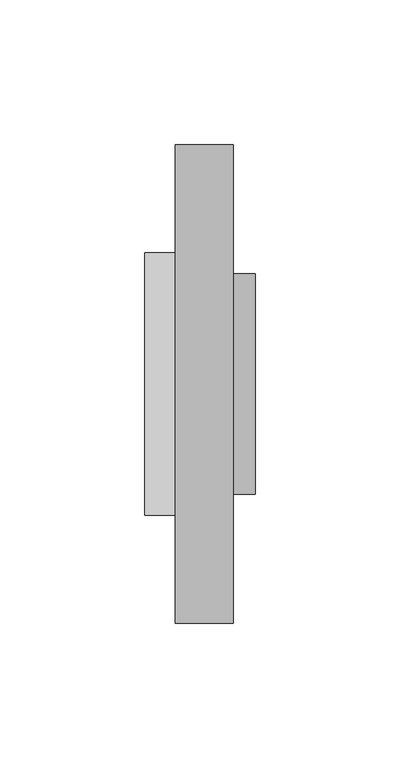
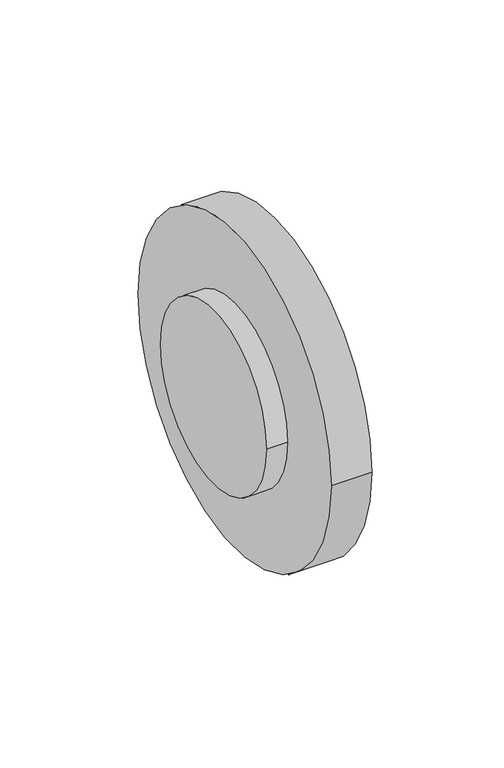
"""IFC4 building model written with IfcOpenShell, lengths in millimetres: pipe fitting geometry, NIRON RED termofusion casquillo con brida : Estándar."""

import ifcopenshell
import ifcopenshell.guid

model = None  # the IFC model being written
_history = None  # IfcOwnerHistory: only IFC2X3 demands one
_inside = {}  # id of a spatial element -> (the spatial element, [elements in it])
_under = {}  # id of a project, library or spatial element -> (it, [spatial elements below it])
_declared = {}  # id of a project -> (the project, [libraries it declares])
_typed = {}  # id of a type object -> (the type object, [elements of that type])
_made_of = {}  # id of a material, layer set ... -> (it, [elements and type objects made of it])


def new_model(schema):
    """Start an empty IFC model of exactly this schema.

    Asked for "IFC4X3", IfcOpenShell would pick the latest addendum, in which some entities
    have other attributes; the version numbers below select the first issue.
    IFC2X3 requires an IfcOwnerHistory on every rooted entity: one is made here for all.
    """
    global model, _history
    if schema == "IFC4X3":
        model = ifcopenshell.file(schema_version=(4, 3, 0, 0))
    else:
        model = ifcopenshell.file(schema=schema)
    _inside.clear()
    _under.clear()
    _declared.clear()
    _typed.clear()
    _made_of.clear()
    _history = None
    if model.schema == "IFC2X3":
        org = make("IfcOrganization", Name="unknown")
        user = make(
            "IfcPersonAndOrganization",
            ThePerson=make("IfcPerson", FamilyName="unknown"),
            TheOrganization=org,
        )
        app = make(
            "IfcApplication",
            ApplicationDeveloper=org,
            Version="unknown",
            ApplicationFullName="unknown",
            ApplicationIdentifier="unknown",
        )
        _history = make(
            "IfcOwnerHistory",
            OwningUser=user,
            OwningApplication=app,
            ChangeAction="ADDED",
            CreationDate=0,
        )
    return model


def make(cls, **values):
    """One entity of the class cls with the attributes given. An attribute that is None is left unset."""
    return model.create_entity(
        cls, **{name: value for name, value in values.items() if value is not None}
    )


def rooted(cls, **values):
    """An entity with a GlobalId (a new one), such as an element, a storey or a relation."""
    return make(cls, GlobalId=ifcopenshell.guid.new(), OwnerHistory=_history, **values)


def si_unit(unit_type, name, prefix=None):
    """IfcSIUnit, for example si_unit("LENGTHUNIT", "METRE", prefix="MILLI")."""
    return make("IfcSIUnit", UnitType=unit_type, Prefix=prefix, Name=name)


def assignment(units):
    """IfcUnitAssignment: the units of a project."""
    return None if units is None else make("IfcUnitAssignment", Units=units)


def point(xyz):
    """IfcCartesianPoint."""
    return None if xyz is None else make("IfcCartesianPoint", Coordinates=xyz)


def direction(xyz):
    """IfcDirection."""
    return None if xyz is None else make("IfcDirection", DirectionRatios=xyz)


def frame(location, z_axis=None, x_axis=None):
    """IfcAxis2Placement3D, a coordinate frame: its origin and axes. An axis left out is left unset."""
    return make(
        "IfcAxis2Placement3D",
        Location=point(location),
        Axis=direction(z_axis),
        RefDirection=direction(x_axis),
    )


def frame_2d(location, x_axis=None):
    """IfcAxis2Placement2D, a coordinate frame in the plane: its origin and x axis."""
    return make(
        "IfcAxis2Placement2D", Location=point(location), RefDirection=direction(x_axis)
    )


def origin():
    """The frame at (0, 0, 0) with its axes left unset."""
    return frame((0.0, 0.0, 0.0))


def origin_2d():
    """The frame at (0, 0) in the plane with its x axis left unset."""
    return frame_2d((0.0, 0.0))


def place(relative_to, where):
    """IfcLocalPlacement: puts the frame where relative to a parent placement (None: the world)."""
    return make(
        "IfcLocalPlacement", PlacementRelTo=relative_to, RelativePlacement=where
    )


def context(
    kind, dimensions, precision=None, world=None, true_north=None, identifier=None
):
    """IfcGeometricRepresentationContext, for example the 3D "Model" context."""
    return make(
        "IfcGeometricRepresentationContext",
        ContextIdentifier=identifier,
        ContextType=kind,
        CoordinateSpaceDimension=dimensions,
        Precision=precision,
        WorldCoordinateSystem=world,
        TrueNorth=true_north,
    )


def project(units=None, contexts=None):
    """IfcProject with its units and contexts."""
    return rooted(
        "IfcProject",
        Name="project",
        RepresentationContexts=contexts,
        UnitsInContext=assignment(units),
    )


def spatial(cls, under=None, at=None, **own):
    """A site, building, storey or space (cls), placed at a placement, below another one or the project."""
    s = rooted(cls, ObjectPlacement=at, **own)
    if under is not None:
        _under.setdefault(under.id(), (under, []))[1].append(s)
    return s


def circle_curve(where, radius):
    """IfcCircle in the frame where."""
    return make("IfcCircle", Position=where, Radius=radius)


def trimmed(basis, trim1, trim2, sense, master):
    """IfcTrimmedCurve: the piece of a basis curve between two trims."""
    return make(
        "IfcTrimmedCurve",
        BasisCurve=basis,
        Trim1=trim1,
        Trim2=trim2,
        SenseAgreement=sense,
        MasterRepresentation=master,
    )


def segment(curve, same_sense, transition):
    """IfcCompositeCurveSegment."""
    return make(
        "IfcCompositeCurveSegment",
        Transition=transition,
        SameSense=same_sense,
        ParentCurve=curve,
    )


def composite_curve(segments, self_intersect=None):
    """IfcCompositeCurve: segments joined end to end."""
    return make("IfcCompositeCurve", Segments=segments, SelfIntersect=self_intersect)


def outline(outer, holes=None, kind="AREA"):
    """IfcArbitraryClosedProfileDef: a profile drawn as a closed curve; with holes, ...WithVoids."""
    if holes is None:
        return make("IfcArbitraryClosedProfileDef", ProfileType=kind, OuterCurve=outer)
    return make(
        "IfcArbitraryProfileDefWithVoids",
        ProfileType=kind,
        OuterCurve=outer,
        InnerCurves=holes,
    )


def extrude(swept, where, along, depth):
    """IfcExtrudedAreaSolid: the profile swept, set in the frame where, extruded along a direction by depth."""
    return make(
        "IfcExtrudedAreaSolid",
        SweptArea=swept,
        Position=where,
        ExtrudedDirection=direction(along),
        Depth=depth,
    )


def shape(context_of_items, identifier, shape_type, items):
    """IfcShapeRepresentation: the items that make up one representation, for example the "Body"."""
    return make(
        "IfcShapeRepresentation",
        ContextOfItems=context_of_items,
        RepresentationIdentifier=identifier,
        RepresentationType=shape_type,
        Items=items,
    )


def source(mapping_origin, context_of_items, identifier, shape_type, items):
    """IfcRepresentationMap: a shape defined once, which mapped items show again and again."""
    return make(
        "IfcRepresentationMap",
        MappingOrigin=mapping_origin,
        MappedRepresentation=shape(context_of_items, identifier, shape_type, items),
    )


def transform(
    local_origin,
    x_axis=None,
    y_axis=None,
    z_axis=None,
    scale=None,
    scale2=None,
    scale3=None,
    uniform=True,
):
    """IfcCartesianTransformationOperator3D, or its non-uniform kind. x_axis, y_axis, z_axis: its Axis1, 2, 3."""
    if uniform:
        return make(
            "IfcCartesianTransformationOperator3D",
            Axis1=direction(x_axis),
            Axis2=direction(y_axis),
            LocalOrigin=point(local_origin),
            Scale=scale,
            Axis3=direction(z_axis),
        )
    return make(
        "IfcCartesianTransformationOperator3DnonUniform",
        Axis1=direction(x_axis),
        Axis2=direction(y_axis),
        LocalOrigin=point(local_origin),
        Scale=scale,
        Axis3=direction(z_axis),
        Scale2=scale2,
        Scale3=scale3,
    )


def mapped(mapping_source, mapping_target):
    """IfcMappedItem: shows the shape of a source again, moved by a transform."""
    return make(
        "IfcMappedItem", MappingSource=mapping_source, MappingTarget=mapping_target
    )


def made_of(thing, what):
    """Note that an element or type object is made of a material, layer set ...; save() writes the relation."""
    if what is not None:
        _made_of.setdefault(what.id(), (what, []))[1].append(thing)
    return thing


def element(
    cls,
    number,
    at=None,
    inside=None,
    cuts=None,
    type_object=None,
    material=None,
    context=None,
    identifier="Body",
    shape_type=None,
    held_by="IfcProductDefinitionShape",
    body=None,
    shapes=None,
    **own,
):
    """One element of the class cls, such as IfcWall. Its Tag is "e" and its number.

    at: its placement. inside: the storey or other place that contains it. cuts: it is an
    opening in that element (IfcRelVoidsElement). A single representation is given by context,
    identifier, shape_type and body (its items); several are given by shapes. held_by: the class
    of the entity that holds the representations. save() writes the other relations.
    """
    e = rooted(cls, Tag="e%d" % number, ObjectPlacement=at, **own)
    if body is not None:
        shapes = [shape(context, identifier, shape_type, body)]
    if shapes is not None:
        e.Representation = make(held_by, Representations=shapes)
    if inside is not None:
        _inside.setdefault(inside.id(), (inside, []))[1].append(e)
    if cuts is not None:
        rooted(
            "IfcRelVoidsElement", RelatingBuildingElement=cuts, RelatedOpeningElement=e
        )
    if type_object is not None:
        _typed.setdefault(type_object.id(), (type_object, []))[1].append(e)
    return made_of(e, material)


def aggregate(whole, parts):
    """IfcRelAggregates: a whole, such as a stair, and the parts it consists of."""
    return rooted("IfcRelAggregates", RelatingObject=whole, RelatedObjects=parts)


def save(model, path):
    """Write the relations noted so far, then the file.

    IfcRelAggregates (storeys below a building ...), IfcRelContainedInSpatialStructure (elements
    in a storey), IfcRelDefinesByType, IfcRelAssociatesMaterial and IfcRelDeclares: one each for
    every whole, place, type object, material and project.
    """
    for whole, parts in _under.values():
        aggregate(whole, parts)
    for where, things in _inside.values():
        rooted(
            "IfcRelContainedInSpatialStructure",
            RelatedElements=things,
            RelatingStructure=where,
        )
    for kind, things in _typed.values():
        rooted("IfcRelDefinesByType", RelatedObjects=things, RelatingType=kind)
    for what, things in _made_of.values():
        rooted("IfcRelAssociatesMaterial", RelatedObjects=things, RelatingMaterial=what)
    for by, libraries in _declared.values():
        rooted("IfcRelDeclares", RelatingContext=by, RelatedDefinitions=libraries)
    model.write(path)


def pipe_fitting_f883e57d(model_context):
    return source(origin(), model_context, "Body", "SweptSolid", [
        extrude(outline(composite_curve([segment(trimmed(circle_curve(origin_2d(), 38.0), [point((38.0, 0.0))], [point((-38.0, 0.0))], False, "CARTESIAN"), True, "CONTINUOUS"), segment(trimmed(circle_curve(origin_2d(), 38.0), [point((-38.0, 0.0))], [point((38.0, 0.0))], False, "CARTESIAN"), True, "CONTINUOUS")], self_intersect=False)), frame((10.5, 0.0, 0.0), z_axis=(1.0, 0.0, 0.0), x_axis=(0.0, 1.0, 0.0)), (0.0, 0.0, 1.0), 27.5),
        extrude(outline(composite_curve([segment(trimmed(circle_curve(origin_2d(), 45.25), [point((-45.25, 0.0))], [point((45.25, 0.0))], False, "CARTESIAN"), True, "CONTINUOUS"), segment(trimmed(circle_curve(origin_2d(), 45.25), [point((45.25, 0.0))], [point((-45.25, 0.0))], False, "CARTESIAN"), True, "CONTINUOUS")], self_intersect=False)), frame((0.0, 0.0, 0.0), z_axis=(1.0, 0.0, 0.0), x_axis=(0.0, 1.0, 0.0)), (0.0, 0.0, 1.0), 10.5),
        extrude(outline(composite_curve([segment(trimmed(circle_curve(origin_2d(), 82.5), [point((82.5, 0.0))], [point((-82.5, 0.0))], False, "CARTESIAN"), True, "CONTINUOUS"), segment(trimmed(circle_curve(origin_2d(), 82.5), [point((-82.5, 0.0))], [point((82.5, 0.0))], False, "CARTESIAN"), True, "CONTINUOUS")], self_intersect=False), holes=[composite_curve([segment(trimmed(circle_curve(origin_2d(), 39.0), [point((39.0, 0.0))], [point((-39.0, 0.0))], True, "CARTESIAN"), True, "CONTINUOUS"), segment(trimmed(circle_curve(origin_2d(), 39.0), [point((-39.0, 0.0))], [point((39.0, 0.0))], True, "CARTESIAN"), True, "CONTINUOUS")], self_intersect=False)]), frame((10.5, 0.0, 0.0), z_axis=(1.0, 0.0, 0.0), x_axis=(0.0, 1.0, 0.0)), (0.0, 0.0, 1.0), 20.0),
    ])


if __name__ == "__main__":
    model = new_model("IFC4")
    model_context = context("Model", 3, world=origin())
    ifc_project = project(units=[si_unit("LENGTHUNIT", "METRE", prefix="MILLI")], contexts=[model_context])
    site = spatial("IfcSite", under=ifc_project)
    building = spatial("IfcBuilding", under=site)
    placement = place(None, origin())
    pipe_fitting_shape = pipe_fitting_f883e57d(model_context)
    element("IfcPipeFitting", 1, ObjectType="NIRON RED termofusion casquillo con brida : Estándar", at=placement, inside=building, context=model_context, shape_type="MappedRepresentation", body=[
        mapped(pipe_fitting_shape, transform((0.0, 0.0, 0.0), x_axis=(1.0, 0.0, 0.0), y_axis=(0.0, 1.0, 0.0), z_axis=(0.0, 0.0, 1.0))),
    ])
    save(model, "model.ifc")
